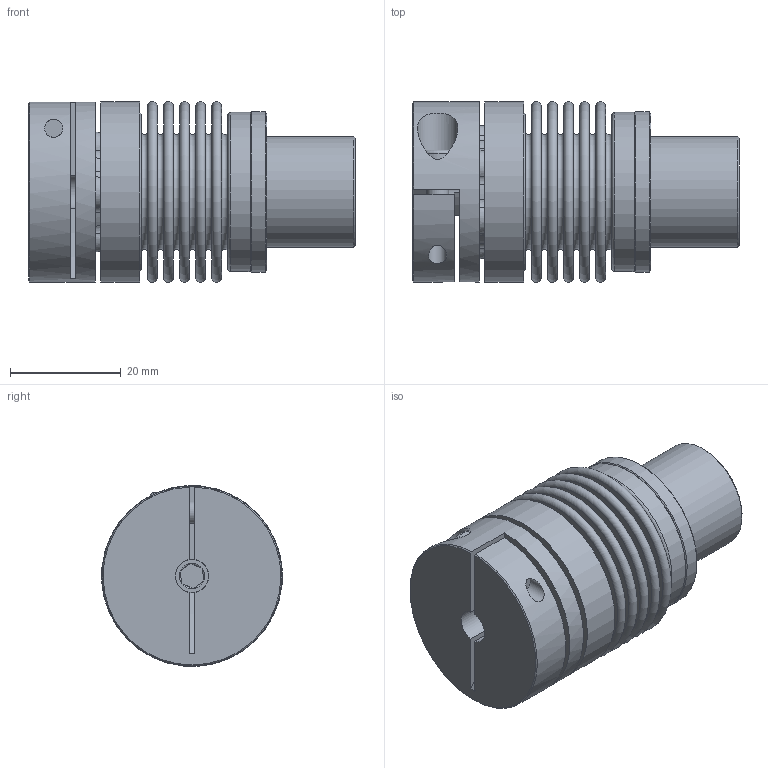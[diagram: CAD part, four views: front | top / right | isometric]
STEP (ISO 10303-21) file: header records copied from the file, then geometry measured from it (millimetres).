
FILE_DESCRIPTION( ( 'KBE1/14 - N7H8 - N14H7 - 98 Sh' ), '1' );
FILE_NAME( 'K:/Konstruktion/Fertigungszeichnungen/Metallbalgkupplung/KB3P/45/KB3P-45-44.stp', '14.12.2015', ( 'KBK-Antriebstechnik' ), ( 'KBK-Antriebstechnik' ), 'PSStep 16.0.42', 'Solid Edge St6', ' ' );
FILE_SCHEMA( ( 'AUTOMOTIVE_DESIGN { 1 0 10303 214 1 1 1 1 }' ) );
Length unit declared in the file: millimetre
Products named in the file (7): Assem1; ISO EN DIN 4762 M5x20; ISO EN DIN 4762 M4x12; SN45; Stecknabe KB2P-45; Balgaufnahme KB2P-45 für Step; BK45_Standard_0
Assembly tree (6 placements, depth 2):
  Assem1
    ISO EN DIN 4762 M5x20
    ISO EN DIN 4762 M4x12
    SN45
    Stecknabe KB2P-45
    Balgaufnahme KB2P-45 für Step
    BK45_Standard_0
Bounding box: 58.95 x 32.6 x 32.6 mm (x, y, z)
Volume: 25936.9 mm3; surface area: 25162 mm2
Topology: 6 solids, 6 shells, 183 faces, 383 edges, 245 vertices
Faces by surface type: cone 67, plane 64, torus 30, cylinder 22
Full cylindrical faces by diameter (mm): 3.242 x1, 3.5 x1, 4 x2, 4.2 x1, 5 x1, 5.5 x1, 6 x1, 7 x1, 7.3 x1, 8.5 x1, 20 x1, 28.2 x3, 28.8 x2, 29 x1, 32.5 x2
Entity records: 6401 total; most frequent: CARTESIAN_POINT 961, DIRECTION 895, ORIENTED_EDGE 636, AXIS2_PLACEMENT_3D 404, EDGE_CURVE 318, EDGE_LOOP 284, VERTEX_POINT 246, FACE_OUTER_BOUND 233
